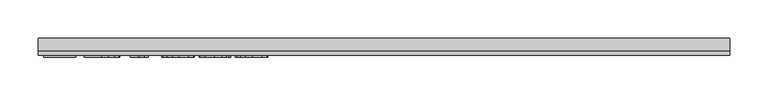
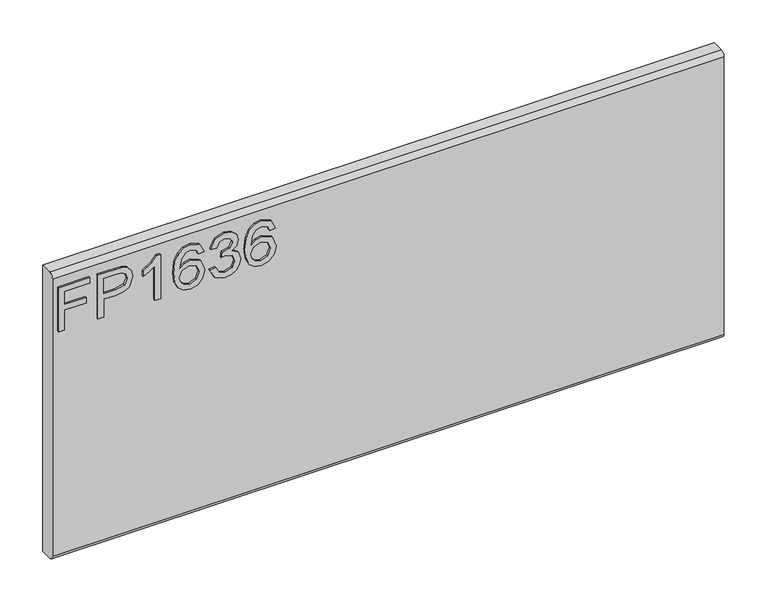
"""IFC4 building model written with IfcOpenShell, lengths in millimetres: furniture geometry."""

from ifc_helpers import new_model, si_unit, frame, origin, place, context, project, spatial, polyline, circle_curve, outline, extrude, source, transform, mapped, element, save
from ifc_brep_helpers import plane_surface, cylinder_surface, advanced_brep


def furniture_14619263(model_context):
    return source(origin(), model_context, "Body", "SolidModel", [
        extrude(outline(polyline([(476.25, -444.0115385), (476.25, -436.1961538), (504.5807692, -436.1961538), (504.5807692, -406.8884615), (512.3961538, -406.8884615), (512.3961538, -436.1961538), (530.9576923, -436.1961538), (530.9576923, -402.0038462), (538.7730769, -402.0038462), (538.7730769, -444.0115385), (476.25, -444.0115385)])), frame((0.0, -15.0812439, 0.0), z_axis=(0.0, 1.0, 0.0), x_axis=(0.0, 0.0, 1.0)), (0.0, 0.0, 1.0), 2.38125),
        extrude(outline(polyline([(476.25, -391.2576923), (476.25, -383.4423077), (501.65, -383.4423077), (501.65, -367.5520433), (503.0314303, -356.4490835), (507.1757212, -349.395012), (520.6847356, -344.3653846), (529.2099159, -346.2276442), (535.2546274, -351.1504207), (538.1777644, -358.7444712), (538.7730769, -368.0862981), (538.7730769, -391.2576923), (476.25, -391.2576923)]), holes=[polyline([(509.4653846, -383.4423077), (530.9576923, -383.4423077), (530.9576923, -367.2772837), (530.4234375, -359.461899), (526.8820913, -354.1880409), (520.409976, -352.1807692), (512.3350962, -355.5847356), (509.4653846, -367.0941106), (509.4653846, -383.4423077)])]), frame((0.0, -15.0812439, 0.0), z_axis=(0.0, 1.0, 0.0), x_axis=(0.0, 0.0, 1.0)), (0.0, 0.0, 1.0), 2.38125),
        extrude(outline(polyline([(476.25, -307.2423077), (538.7730769, -307.2423077), (538.7730769, -312.2795673), (530.4539663, -319.232512), (523.1423077, -330.6884615), (515.7543269, -330.6884615), (519.7001803, -322.4609375), (524.9740385, -315.0576923), (476.25, -315.0576923), (476.25, -307.2423077)])), frame((0.0, -15.0812439, 0.0), z_axis=(0.0, 1.0, 0.0), x_axis=(0.0, 0.0, 1.0)), (0.0, 0.0, 1.0), 2.38125),
        extrude(outline(polyline([(522.1653846, -248.6269231), (534.3616587, -254.396875), (538.7730769, -266.7457933), (536.9909555, -275.8166767), (531.6445913, -282.8192308), (521.0014724, -287.9480769), (505.4355769, -289.6576923), (491.5907452, -288.1178936), (482.2947115, -283.4984976), (477.0284856, -276.4367939), (475.2730769, -267.5700721), (477.9214543, -257.3276442), (485.5536659, -250.2296875), (496.3379808, -247.65), (510.7323317, -253.1299279), (516.3038462, -266.409976), (514.2660457, -274.9504207), (508.0305288, -281.8423077), (521.9593149, -279.6213341), (529.0649038, -274.2864183), (530.9576923, -267.2342548), (527.7063702, -259.4036058), (521.1884615, -256.4423077), (522.1653846, -248.6269231)]), holes=[polyline([(496.4600962, -281.8423077), (505.1684495, -277.957512), (508.4884615, -268.5012019), (505.1684495, -258.9227764), (496.0784856, -255.4653846), (486.5840144, -258.9685697), (483.0884615, -268.180649), (484.7751803, -275.2251803), (489.6903245, -280.0334736), (496.4600962, -281.8423077)])]), frame((0.0, -15.0812439, 0.0), z_axis=(0.0, 1.0, 0.0), x_axis=(0.0, 0.0, 1.0)), (0.0, 0.0, 1.0), 2.38125),
        extrude(outline(polyline([(492.8576923, -240.8115385), (480.1729567, -234.5989183), (475.2730769, -220.8914663), (476.7079327, -212.5380108), (481.0125, -205.7644231), (487.3777644, -201.2766827), (494.9947115, -199.7807692), (505.1608173, -202.7725962), (510.5033654, -211.2901442), (515.6780048, -204.8790865), (522.8828125, -202.7115385), (530.766887, -204.9935697), (536.6284255, -211.5878005), (538.7730769, -221.0135817), (534.4227163, -233.4388221), (522.1653846, -239.8346154), (521.1884615, -232.0192308), (528.5153846, -228.1878606), (530.9576923, -220.7388221), (528.5382813, -213.3813702), (522.4248798, -210.5269231), (515.5253606, -214.4651442), (513.3730769, -224.5854567), (505.5576923, -225.4555288), (506.4125, -219.975601), (503.2146034, -211.0917067), (495.1320913, -207.5961538), (486.5534856, -211.1222356), (483.0884615, -220.6167067), (485.6070913, -228.6839543), (493.8346154, -232.9961538), (492.8576923, -240.8115385)])), frame((0.0, -15.0812439, 0.0), z_axis=(0.0, 1.0, 0.0), x_axis=(0.0, 0.0, 1.0)), (0.0, 0.0, 1.0), 2.38125),
        extrude(outline(polyline([(522.1653846, -152.8884615), (534.3616587, -158.6584135), (538.7730769, -171.0073317), (536.9909555, -180.0782151), (531.6445913, -187.0807692), (521.0014724, -192.2096154), (505.4355769, -193.9192308), (491.5907452, -192.3794321), (482.2947115, -187.7600361), (477.0284856, -180.6983323), (475.2730769, -171.8316106), (477.9214543, -161.5891827), (485.5536659, -154.491226), (496.3379808, -151.9115385), (510.7323317, -157.3914663), (516.3038462, -170.6715144), (514.2660457, -179.2119591), (508.0305288, -186.1038462), (521.9593149, -183.8828726), (529.0649038, -178.5479567), (530.9576923, -171.4957933), (527.7063702, -163.6651442), (521.1884615, -160.7038462), (522.1653846, -152.8884615)]), holes=[polyline([(496.4600962, -186.1038462), (505.1684495, -182.2190505), (508.4884615, -172.7627404), (505.1684495, -163.1843149), (496.0784856, -159.7269231), (486.5840144, -163.2301082), (483.0884615, -172.4421875), (484.7751803, -179.4867188), (489.6903245, -184.295012), (496.4600962, -186.1038462)])]), frame((0.0, -15.0812439, 0.0), z_axis=(0.0, 1.0, 0.0), x_axis=(0.0, 0.0, 1.0)), (0.0, 0.0, 1.0), 2.38125),
        advanced_brep(
        [(450.85, 9.5250061, 558.8), (450.85, -6.7309939, 558.8), (450.85, -12.6999939, 552.831), (450.85, -12.6999939, 158.369), (450.85, -6.7309939, 152.4), (450.85, 9.5250061, 152.4), (-450.85, 9.5250061, 558.8), (-450.85, 9.5250061, 152.4), (-450.85, -6.7309939, 152.4), (-450.85, -12.6999939, 158.369), (-450.85, -12.6999939, 552.8310121), (-450.85, -6.7309939, 558.8)],
        [
            (0, 1),
            (1, 2, circle_curve(frame((450.85, -6.7309939, 552.831), z_axis=(1.0, 0.0, 0.0), x_axis=(0.0, 1.0, 0.0)), 5.969)),
            (2, 3),
            (3, 4, circle_curve(frame((450.85, -6.7309939, 158.369), z_axis=(1.0, 0.0, 0.0), x_axis=(0.0, 1.0, 0.0)), 5.969)),
            (4, 5),
            (5, 0),
            (6, 7),
            (7, 8),
            (8, 9, circle_curve(frame((-450.85, -6.7309939, 158.369), z_axis=(-1.0, 0.0, 0.0), x_axis=(0.0, 1.0, 0.0)), 5.969)),
            (9, 10),
            (10, 11, circle_curve(frame((-450.85, -6.7309939, 552.831), z_axis=(-1.0, 0.0, 0.0), x_axis=(0.0, 1.0, 0.0)), 5.969)),
            (11, 6),
            (0, 6),
            (11, 1),
            (10, 2),
            (9, 3),
            (8, 4),
            (7, 5),
        ],
        [
            plane_surface(frame((450.85, -6.7309939, 558.8), z_axis=(1.0, 0.0, 0.0), x_axis=(0.0, -1.0, 0.0))),
            plane_surface(frame((-450.85, -6.7309939, 558.8), z_axis=(-1.0, 0.0, 0.0), x_axis=(0.0, 1.0, 0.0))),
            plane_surface(frame((450.85, 9.5250061, 558.8), z_axis=(0.0, 0.0, 1.0), x_axis=(-1.0, 0.0, 0.0))),
            cylinder_surface(frame((-450.85, -6.7309939, 552.831), z_axis=(1.0, 0.0, 0.0), x_axis=(0.0, 1.0, 0.0)), 5.969),
            plane_surface(frame((450.85, -12.6999939, 552.8310121), z_axis=(0.0, -1.0, 0.0), x_axis=(-1.0, 0.0, 0.0))),
            cylinder_surface(frame((-450.85, -6.7309939, 158.369), z_axis=(1.0, 0.0, 0.0), x_axis=(0.0, 1.0, 0.0)), 5.969),
            plane_surface(frame((450.85, -6.7309939, 152.4), z_axis=(0.0, 0.0, -1.0), x_axis=(-1.0, 0.0, 0.0))),
            plane_surface(frame((450.85, 9.5250061, 152.4), z_axis=(0.0, 1.0, 0.0), x_axis=(-1.0, 0.0, 0.0))),
        ],
        [
            (0, [[1, 2, 3, 4, 5, 6]]),
            (1, [[7, 8, 9, 10, 11, 12]]),
            (2, [[-1, 13, -12, 14]]),
            (3, [[-2, -14, -11, 15]]),
            (4, [[-3, -15, -10, 16]]),
            (5, [[-4, -16, -9, 17]]),
            (6, [[-5, -17, -8, 18]]),
            (7, [[-6, -18, -7, -13]]),
        ],
    ),
    ])


if __name__ == "__main__":
    model = new_model("IFC4")
    model_context = context("Model", 3, world=origin())
    ifc_project = project(units=[si_unit("LENGTHUNIT", "METRE", prefix="MILLI")], contexts=[model_context])
    site = spatial("IfcSite", under=ifc_project)
    building = spatial("IfcBuilding", under=site)
    placement = place(None, origin())
    furniture_shape = furniture_14619263(model_context)
    element("IfcFurniture", 1, ObjectType="HermanMiller_Ethospace_E1420_FaceTile : Ptd 16\"H x 36\"W", at=placement, inside=building, context=model_context, shape_type="MappedRepresentation", body=[
        mapped(furniture_shape, transform((0.0, 0.0, 0.0), x_axis=(1.0, 0.0, 0.0), y_axis=(0.0, 1.0, 0.0), z_axis=(0.0, 0.0, 1.0))),
    ])
    save(model, "model.ifc")
